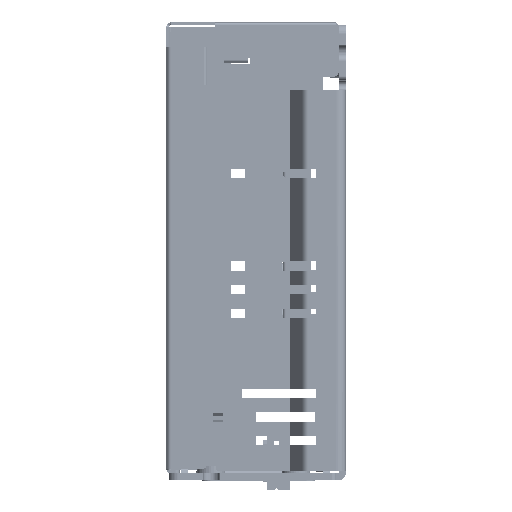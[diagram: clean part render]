
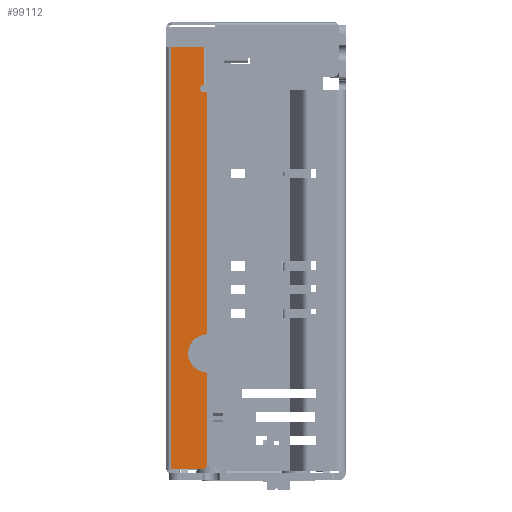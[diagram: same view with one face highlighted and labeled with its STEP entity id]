
A CAD part, left-side view. The second image highlights one B-rep face of the part: STEP entity #99112.
In plain terms, the highlighted planar face has unit normal (-1, 0, 0).
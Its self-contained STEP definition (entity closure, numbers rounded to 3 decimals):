
#54588=DIRECTION('',(0.,0.,-1.));
#54589=VECTOR('',#54588,89.3);
#54590=CARTESIAN_POINT('',(-77.4,-0.3,42.45));
#54591=LINE('',#54590,#54589);
#69374=CARTESIAN_POINT('',(-77.4,-7.5,-17.878));
#69375=DIRECTION('',(1.,0.,0.));
#69376=DIRECTION('',(0.,-1.,0.));
#69377=AXIS2_PLACEMENT_3D('',#69374,#69375,#69376);
#69382=CARTESIAN_POINT('',(-77.4,-8.,-22.35));
#69383=DIRECTION('',(-1.,0.,0.));
#69384=DIRECTION('',(0.,0.111,0.994));
#69385=AXIS2_PLACEMENT_3D('',#69382,#69383,#69384);
#69390=CARTESIAN_POINT('',(-77.4,-7.5,-26.822));
#69391=DIRECTION('',(1.,0.,0.));
#69392=DIRECTION('',(0.,-0.111,0.994));
#69393=AXIS2_PLACEMENT_3D('',#69390,#69391,#69392);
#69398=DIRECTION('',(0.,0.,-1.));
#69399=VECTOR('',#69398,19.028);
#69400=CARTESIAN_POINT('',(-77.4,-8.,-26.822));
#69401=LINE('',#69400,#69399);
#69405=CARTESIAN_POINT('',(-77.4,-7.,-45.85));
#69406=DIRECTION('',(1.,0.,0.));
#69407=DIRECTION('',(0.,-1.,0.));
#69408=AXIS2_PLACEMENT_3D('',#69405,#69406,#69407);
#69413=DIRECTION('',(0.,1.,0.));
#69414=VECTOR('',#69413,6.7);
#69415=CARTESIAN_POINT('',(-77.4,-7.,-46.85));
#69416=LINE('',#69415,#69414);
#69420=CARTESIAN_POINT('',(-77.4,-7.3,33.7));
#69421=DIRECTION('',(-1.,0.,0.));
#69422=DIRECTION('',(0.,0.,1.));
#69423=AXIS2_PLACEMENT_3D('',#69420,#69421,#69422);
#69428=DIRECTION('',(0.,-1.,0.));
#69429=VECTOR('',#69428,0.7);
#69430=CARTESIAN_POINT('',(-77.4,-7.3,32.95));
#69431=LINE('',#69430,#69429);
#69435=DIRECTION('',(0.,0.,-1.));
#69436=VECTOR('',#69435,50.828);
#69437=CARTESIAN_POINT('',(-77.4,-8.,32.95));
#69438=LINE('',#69437,#69436);
#69554=DIRECTION('',(0.,0.,1.));
#69555=VECTOR('',#69554,8.);
#69556=CARTESIAN_POINT('',(-77.4,-7.3,34.45));
#69557=LINE('',#69556,#69555);
#69598=DIRECTION('',(0.,1.,0.));
#69599=VECTOR('',#69598,7.);
#69600=CARTESIAN_POINT('',(-77.4,-7.3,42.45));
#69601=LINE('',#69600,#69599);
#75563=CARTESIAN_POINT('',(-77.4,-0.3,42.45));
#75564=VERTEX_POINT('',#75563);
#75567=CARTESIAN_POINT('',(-77.4,-0.3,-46.85));
#75568=VERTEX_POINT('',#75567);
#77541=CARTESIAN_POINT('',(-77.4,-8.,-17.878));
#77542=CARTESIAN_POINT('',(-77.4,-7.556,-18.375));
#77543=VERTEX_POINT('',#77541);
#77544=VERTEX_POINT('',#77542);
#77545=CARTESIAN_POINT('',(-77.4,-7.556,-26.325));
#77546=VERTEX_POINT('',#77545);
#77547=CARTESIAN_POINT('',(-77.4,-8.,-26.822));
#77548=VERTEX_POINT('',#77547);
#77549=CARTESIAN_POINT('',(-77.4,-8.,-45.85));
#77550=VERTEX_POINT('',#77549);
#77551=CARTESIAN_POINT('',(-77.4,-7.,-46.85));
#77552=VERTEX_POINT('',#77551);
#77553=CARTESIAN_POINT('',(-77.4,-7.3,42.45));
#77554=VERTEX_POINT('',#77553);
#77555=CARTESIAN_POINT('',(-77.4,-7.3,34.45));
#77556=VERTEX_POINT('',#77555);
#77557=CARTESIAN_POINT('',(-77.4,-7.3,32.95));
#77558=VERTEX_POINT('',#77557);
#77559=CARTESIAN_POINT('',(-77.4,-8.,32.95));
#77560=VERTEX_POINT('',#77559);
#99082=CARTESIAN_POINT('',(-77.4,0.6,-47.75));
#99083=DIRECTION('',(-1.,0.,0.));
#99084=DIRECTION('',(0.,0.,-1.));
#99085=AXIS2_PLACEMENT_3D('',#99082,#99083,#99084);
#99086=PLANE('',#99085);
#99088=ORIENTED_EDGE('',*,*,#99087,.T.);
#99090=ORIENTED_EDGE('',*,*,#99089,.T.);
#99092=ORIENTED_EDGE('',*,*,#99091,.T.);
#99094=ORIENTED_EDGE('',*,*,#99093,.T.);
#99096=ORIENTED_EDGE('',*,*,#99095,.T.);
#99098=ORIENTED_EDGE('',*,*,#99097,.T.);
#99099=ORIENTED_EDGE('',*,*,#83478,.F.);
#99101=ORIENTED_EDGE('',*,*,#99100,.F.);
#99103=ORIENTED_EDGE('',*,*,#99102,.F.);
#99105=ORIENTED_EDGE('',*,*,#99104,.T.);
#99107=ORIENTED_EDGE('',*,*,#99106,.T.);
#99109=ORIENTED_EDGE('',*,*,#99108,.T.);
#99110=EDGE_LOOP('',(#99088,#99090,#99092,#99094,#99096,#99098,#99099,#99101,
#99103,#99105,#99107,#99109));
#99111=FACE_OUTER_BOUND('',#99110,.F.);
#69378=CIRCLE('',#69377,0.5);
#69386=CIRCLE('',#69385,4.);
#69394=CIRCLE('',#69393,0.5);
#69409=CIRCLE('',#69408,1.);
#69424=CIRCLE('',#69423,0.75);
#83478=EDGE_CURVE('',#75564,#75568,#54591,.T.);
#99087=EDGE_CURVE('',#77543,#77544,#69378,.T.);
#99089=EDGE_CURVE('',#77544,#77546,#69386,.T.);
#99091=EDGE_CURVE('',#77546,#77548,#69394,.T.);
#99093=EDGE_CURVE('',#77548,#77550,#69401,.T.);
#99095=EDGE_CURVE('',#77550,#77552,#69409,.T.);
#99097=EDGE_CURVE('',#77552,#75568,#69416,.T.);
#99100=EDGE_CURVE('',#77554,#75564,#69601,.T.);
#99102=EDGE_CURVE('',#77556,#77554,#69557,.T.);
#99104=EDGE_CURVE('',#77556,#77558,#69424,.T.);
#99106=EDGE_CURVE('',#77558,#77560,#69431,.T.);
#99108=EDGE_CURVE('',#77560,#77543,#69438,.T.);
#99112=ADVANCED_FACE('',(#99111),#99086,.T.);
